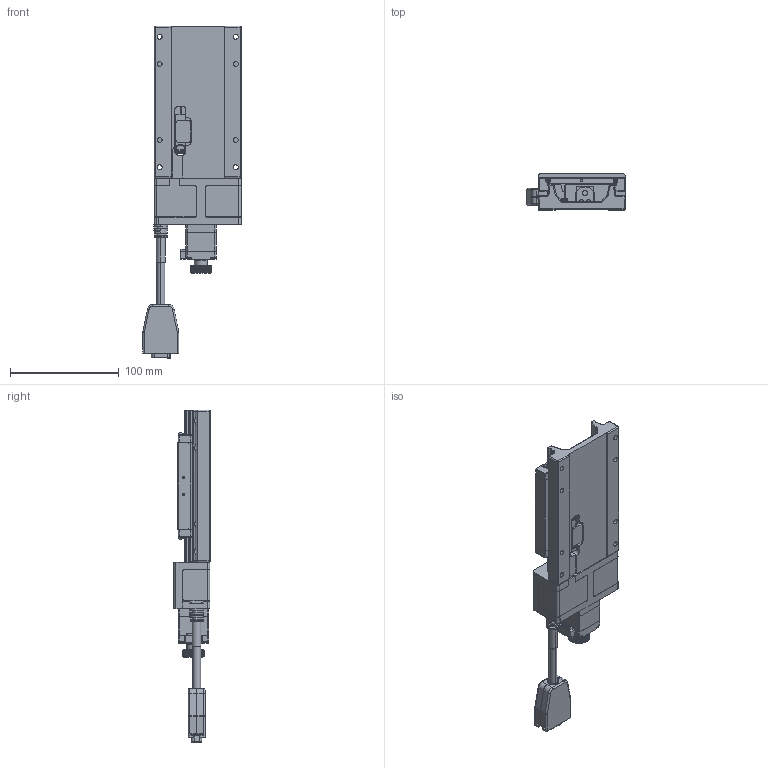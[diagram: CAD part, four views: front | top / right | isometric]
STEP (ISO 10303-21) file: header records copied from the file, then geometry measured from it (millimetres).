
FILE_DESCRIPTION (( 'STEP AP203' ), '1' );
FILE_NAME ('CXN8030-S2?N.STEP', '2023-09-28T05:10:10', ( '' ), ( '' ), 'SwSTEP 2.0', 'SolidWorks 2019', '' );
FILE_SCHEMA (( 'CONFIG_CONTROL_DESIGN' ));
Length unit declared in the file: millimetre
Products named in the file (3): CXN8030-S2?N; Group1^CXN8030-S2?N(2023·sª©)_defeature_defeature_GMT; Group2^CXN8030-S2?N(2023·sª©)_defeature_defeature_GMT
Assembly tree (2 placements, depth 2):
  CXN8030-S2?N
    Group2^CXN8030-S2?N(2023·sª©)_defeature_defeature_GMT
    Group1^CXN8030-S2?N(2023·sª©)_defeature_defeature_GMT
Bounding box: 90.5 x 33.5 x 305.7 mm (x, y, z)
Volume: 59144.9 mm3; surface area: 111908.4 mm2
Topology: 3 solids, 6 shells, 3598 faces, 9491 edges, 5900 vertices
Faces by surface type: plane 1575, cylinder 1069, torus 384, bspline 233, cone 221, sphere 116
Entity records: 122434 total; most frequent: CARTESIAN_POINT 35107, ORIENTED_EDGE 18698, DIRECTION 17845, EDGE_CURVE 9349, AXIS2_PLACEMENT_3D 6518, VERTEX_POINT 5892, VECTOR 4809, LINE 4809
